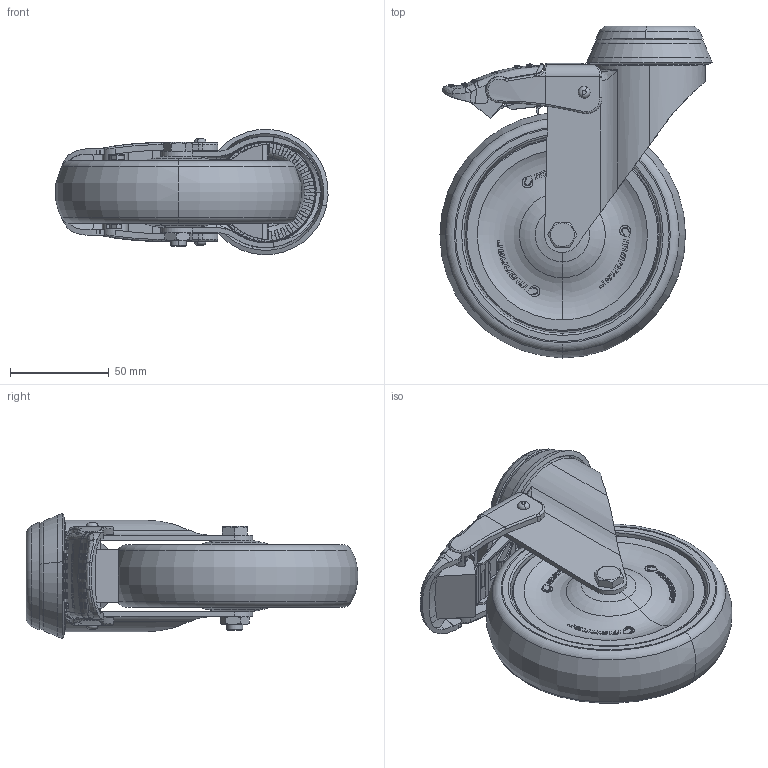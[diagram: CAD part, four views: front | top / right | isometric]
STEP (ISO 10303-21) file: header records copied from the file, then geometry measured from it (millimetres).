
FILE_DESCRIPTION (( 'STEP AP214' ), '1' );
FILE_NAME ('11385.STEP', '2020-04-20T12:21:11', ( '' ), ( '' ), 'SwSTEP 2.0', 'SolidWorks 2017', '' );
FILE_SCHEMA (( 'AUTOMOTIVE_DESIGN' ));
Length unit declared in the file: millimetre
Products named in the file (1): 11385
Bounding box: 137.54 x 167.77 x 63.32 mm (x, y, z)
Volume: 294530.3 mm3; surface area: 186443.5 mm2
Topology: 74 solids, 118 shells, 2885 faces, 7748 edges, 4839 vertices
Faces by surface type: plane 1205, cylinder 612, bspline 417, sphere 370, torus 176, cone 105
Entity records: 147980 total; most frequent: CARTESIAN_POINT 54539, ORIENTED_EDGE 14346, DIRECTION 10007, EDGE_CURVE 7173, VERTEX_POINT 4639, AXIS2_PLACEMENT_3D 3785, B_SPLINE_CURVE_WITH_KNOTS 3236, EDGE_LOOP 3060
